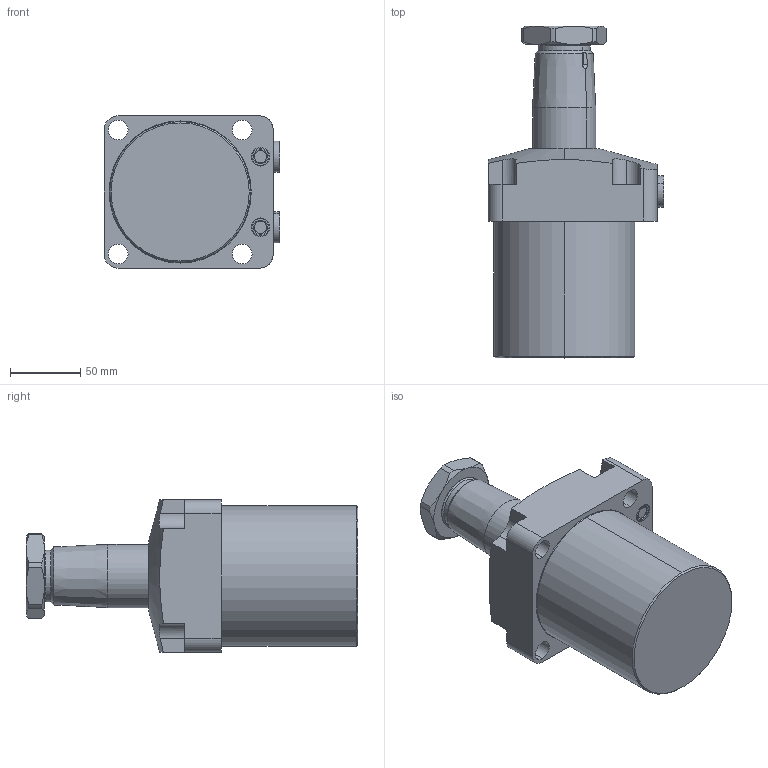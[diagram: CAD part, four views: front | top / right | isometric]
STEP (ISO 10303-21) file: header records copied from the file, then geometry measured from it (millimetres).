
FILE_DESCRIPTION(/* description */ (''),/* implementation_level */ '2;1');
FILE_NAME(/* name */ 'TRC25-LN45.stp',/* time_stamp */ '2025-01-04T09:54:34+08:00',/* author */ (''),/* organization */ (''),/* preprocessor_version */ 'ST-DEVELOPER v16.7',/* originating_system */ 'SIEMENS PLM Software NX 12.0',/* authorisation */ '');
FILE_SCHEMA (('AUTOMOTIVE_DESIGN { 1 0 10303 214 3 1 1 1 }'));
Length unit declared in the file: millimetre
Products named in the file (5): TRC25-LN45-04; TRC25-LN45-03; TRC25-LN45-02; TRC25-LN45-01; TRC25-LN45_stp
Assembly tree (5 placements, depth 2):
  TRC25-LN45_stp
    TRC25-LN45-01
    TRC25-LN45-02
    TRC25-LN45-03
    TRC25-LN45-04  x2
Bounding box: 124.8 x 235.4 x 108 mm (x, y, z)
Volume: 1413009.6 mm3; surface area: 110893 mm2
Topology: 5 solids, 7 shells, 203 faces, 465 edges, 288 vertices
Faces by surface type: cylinder 73, plane 67, cone 40, torus 22, sphere 1
Entity records: 5410 total; most frequent: CARTESIAN_POINT 1086, DIRECTION 938, ORIENTED_EDGE 836, EDGE_CURVE 418, AXIS2_PLACEMENT_3D 386, VERTEX_POINT 260, EDGE_LOOP 206, CIRCLE 199
